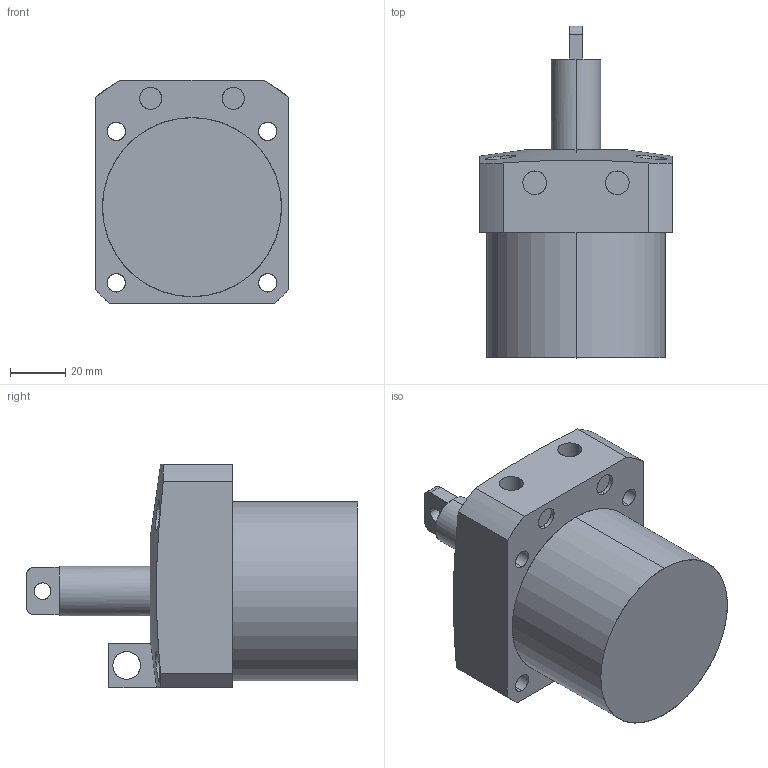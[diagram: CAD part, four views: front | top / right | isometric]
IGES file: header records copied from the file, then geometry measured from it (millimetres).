
Start section: SolidWorks IGES file using analytic representation for surfaces
Global section: file name: E:\karthik\pneu toogle\65\0412-0651.IGS; native system: SolidWorks 2010; preprocessor: SolidWorks 2010; author: karthik; date: 130916.181101; units: millimetre
Bounding box: 70 x 120.5 x 81 mm (x, y, z)
Surface area: 36428.1 mm2 (no closed solid volume)
Topology: 0 solids, 0 shells, 80 faces, 1650 edges, 1650 vertices
Faces by surface type: revolution 48, bspline 32
